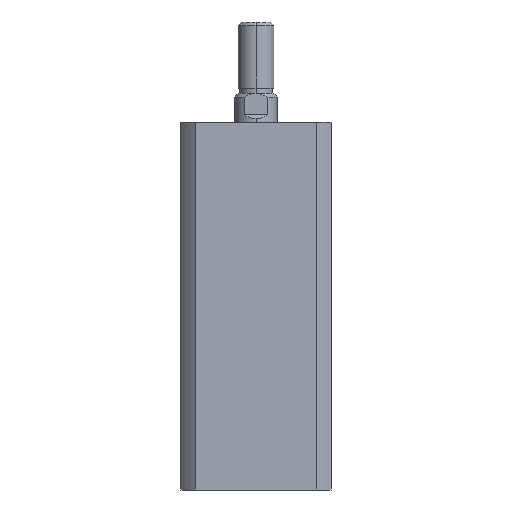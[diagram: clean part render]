
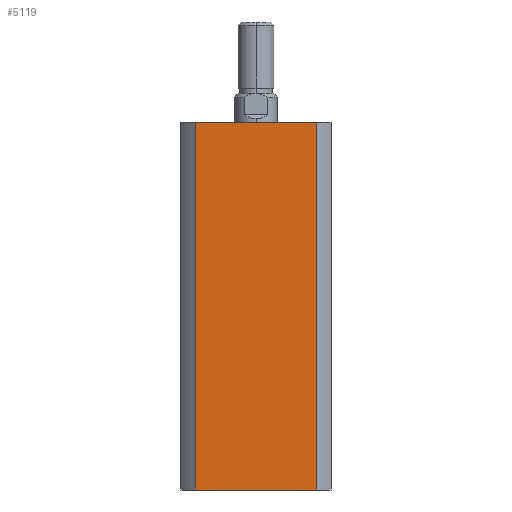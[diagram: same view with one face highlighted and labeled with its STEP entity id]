
A CAD part, left-side view. The second image highlights one B-rep face of the part: STEP entity #5119.
In plain terms, the highlighted planar face has unit normal (-1, 0, 0).
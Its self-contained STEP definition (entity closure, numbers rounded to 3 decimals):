
#232 = EDGE_CURVE ( 'NONE', #2726, #2769, #800, .T. ) ;
#556 = DIRECTION ( 'NONE',  ( 0., 0., 1. ) ) ;
#557 = CARTESIAN_POINT ( 'NONE',  ( -21., 16.971, 103. ) ) ;
#558 = DIRECTION ( 'NONE',  ( 0., 0., -1. ) ) ;
#559 = CARTESIAN_POINT ( 'NONE',  ( -21., -16.971, 103. ) ) ;
#586 = DIRECTION ( 'NONE',  ( 0., -1., 0. ) ) ;
#587 = CARTESIAN_POINT ( 'NONE',  ( -21., 21., 103. ) ) ;
#713 = VECTOR ( 'NONE', #556, 1000. ) ;
#715 = VECTOR ( 'NONE', #558, 1000. ) ;
#716 = LINE ( 'NONE', #557, #713 ) ;
#718 = LINE ( 'NONE', #559, #715 ) ;
#733 = VECTOR ( 'NONE', #586, 1000. ) ;
#736 = LINE ( 'NONE', #587, #733 ) ;
#799 = VECTOR ( 'NONE', #3395, 1000. ) ;
#800 = LINE ( 'NONE', #3399, #799 ) ;
#1430 = DIRECTION ( 'NONE',  ( 0., 1., 0. ) ) ;
#1431 = DIRECTION ( 'NONE',  ( 1., 0., 0. ) ) ;
#1433 = PLANE ( 'NONE',  #2653 ) ;
#1439 = CARTESIAN_POINT ( 'NONE',  ( -21., 21., 103. ) ) ;
#1677 = ORIENTED_EDGE ( 'NONE', *, *, #3021, .F. ) ;
#1678 = ORIENTED_EDGE ( 'NONE', *, *, #3011, .F. ) ;
#1679 = ORIENTED_EDGE ( 'NONE', *, *, #3022, .F. ) ;
#1680 = ORIENTED_EDGE ( 'NONE', *, *, #232, .T. ) ;
#2033 = VERTEX_POINT ( 'NONE', #3352 ) ;
#2653 = AXIS2_PLACEMENT_3D ( 'NONE', #1439, #1431, #1430 ) ;
#2726 = VERTEX_POINT ( 'NONE', #3261 ) ;
#2739 = VERTEX_POINT ( 'NONE', #3250 ) ;
#2769 = VERTEX_POINT ( 'NONE', #3220 ) ;
#2856 = EDGE_LOOP ( 'NONE', ( #1677, #1678, #1679, #1680 ) ) ;
#3011 = EDGE_CURVE ( 'NONE', #2739, #2033, #736, .T. ) ;
#3021 = EDGE_CURVE ( 'NONE', #2033, #2769, #718, .T. ) ;
#3022 = EDGE_CURVE ( 'NONE', #2726, #2739, #716, .T. ) ;
#3220 = CARTESIAN_POINT ( 'NONE',  ( -21., -16.971, 0. ) ) ;
#3250 = CARTESIAN_POINT ( 'NONE',  ( -21., 16.971, 103. ) ) ;
#3261 = CARTESIAN_POINT ( 'NONE',  ( -21., 16.971, 0. ) ) ;
#3352 = CARTESIAN_POINT ( 'NONE',  ( -21., -16.971, 103. ) ) ;
#3395 = DIRECTION ( 'NONE',  ( 0., -1., 0. ) ) ;
#3399 = CARTESIAN_POINT ( 'NONE',  ( -21., 21., 0. ) ) ;
#3629 = FACE_OUTER_BOUND ( 'NONE', #2856, .T. ) ;
#5119 = ADVANCED_FACE ( 'NONE', ( #3629 ), #1433, .F. ) ;
